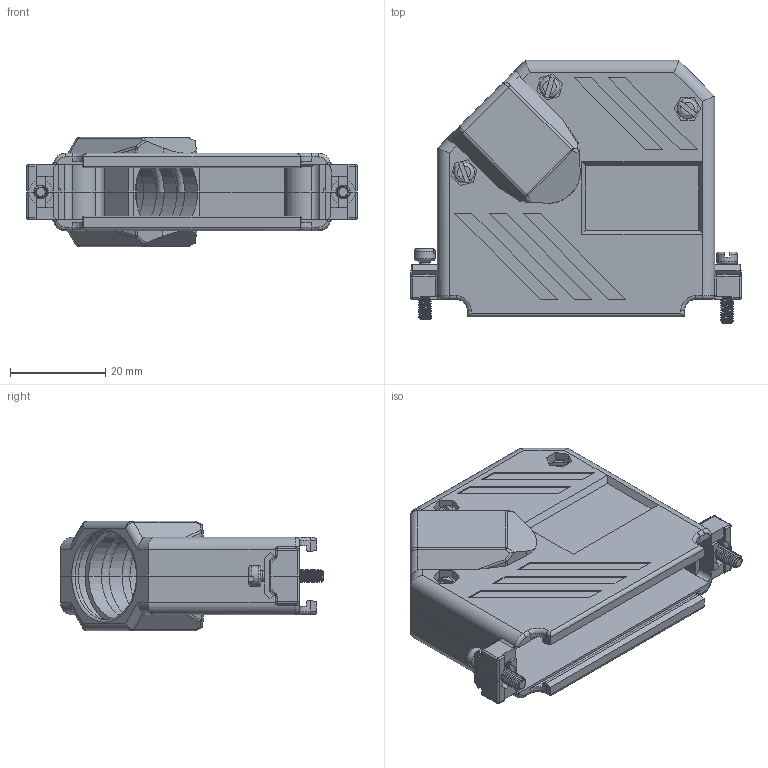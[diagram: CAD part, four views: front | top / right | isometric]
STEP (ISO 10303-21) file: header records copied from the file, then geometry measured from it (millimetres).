
FILE_DESCRIPTION((''),'2;1');
FILE_NAME('D:\_NTC CAD MODELS & ASSEMBLIES - STEP\STEP FILES\covers - ntc\cpp 45d series -\cpp_45d_37 -\cpp_45d_37_assy.stp','2016-04-28T17:09:04',('j_dipietro'),(''),'Autodesk Inventor 2012','Autodesk Inventor 2012','');
FILE_SCHEMA(('CONFIG_CONTROL_DESIGN'));
Length unit declared in the file: inch
Products named in the file (7): cpp_45d_37_assy; cpp_45d_37_bot; cpp_45d_37_top; b71014144; b71314144; b73190004; b72114064
Assembly tree (12 placements, depth 2):
  cpp_45d_37_assy
    cpp_45d_37_bot
    cpp_45d_37_top
    b71014144  x3
    b71314144  x2
    b73190004  x2
    b72114064  x3
Bounding box: 69.44 x 55.27 x 23.01 mm (x, y, z)
Volume: 19819.6 mm3; surface area: 20564.1 mm2
Topology: 12 solids, 12 shells, 708 faces, 1829 edges, 1167 vertices
Faces by surface type: plane 412, cylinder 187, torus 62, sphere 20, bspline 20, cone 7
Full cylindrical faces by diameter (mm): 2.159 x2, 2.972 x2, 3.048 x6, 4.318 x5
Entity records: 22193 total; most frequent: CARTESIAN_POINT 7050, DIRECTION 3102, ORIENTED_EDGE 3094, EDGE_CURVE 1547, VECTOR 1074, LINE 1074, AXIS2_PLACEMENT_3D 1014, VERTEX_POINT 994
